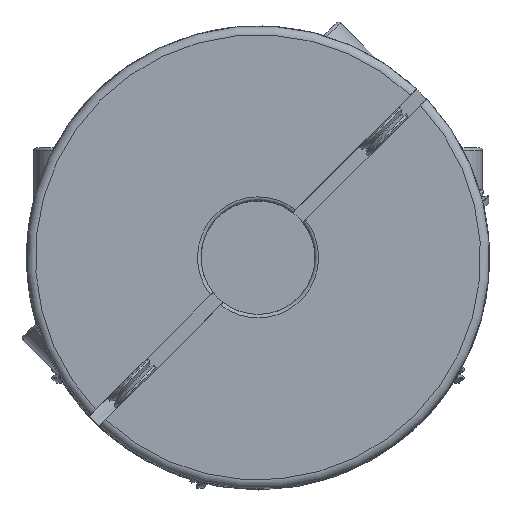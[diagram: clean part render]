
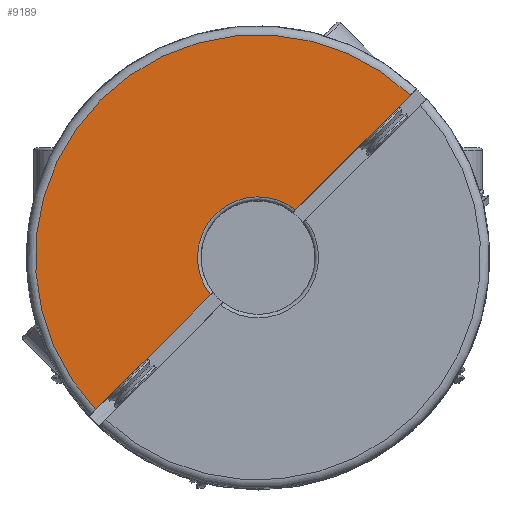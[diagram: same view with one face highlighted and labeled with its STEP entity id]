
A CAD part, top view. The second image highlights one B-rep face of the part: STEP entity #9189.
In plain terms, the highlighted planar face has unit normal (0, 0, 1).
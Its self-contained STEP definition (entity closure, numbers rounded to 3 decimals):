
#261 = ORIENTED_EDGE ( 'NONE', *, *, #31952, .T. ) ;
#545 = VECTOR ( 'NONE', #12340, 1000. ) ;
#1183 = EDGE_CURVE ( 'NONE', #30923, #21366, #22845, .T. ) ;
#2732 = AXIS2_PLACEMENT_3D ( 'NONE', #25212, #9863, #27783 ) ;
#4796 = PLANE ( 'NONE',  #11989 ) ;
#5323 = VERTEX_POINT ( 'NONE', #33119 ) ;
#5577 = DIRECTION ( 'NONE',  ( 0.707, 0.707, 0. ) ) ;
#7372 = CARTESIAN_POINT ( 'NONE',  ( 1.121, 1.995, 84.552 ) ) ;
#7559 = DIRECTION ( 'NONE',  ( 0., 0., -1. ) ) ;
#9189 = ADVANCED_FACE ( 'NONE', ( #26488 ), #4796, .F. ) ;
#9863 = DIRECTION ( 'NONE',  ( 0., 0., 1. ) ) ;
#9936 = DIRECTION ( 'NONE',  ( -0.707, -0.707, 0. ) ) ;
#11989 = AXIS2_PLACEMENT_3D ( 'NONE', #7372, #25295, #9936 ) ;
#12340 = DIRECTION ( 'NONE',  ( 0.707, 0.707, 0. ) ) ;
#12611 = CARTESIAN_POINT ( 'NONE',  ( 6.382, 8.671, 84.552 ) ) ;
#13709 = LINE ( 'NONE', #15757, #14505 ) ;
#14505 = VECTOR ( 'NONE', #5577, 1000. ) ;
#15757 = CARTESIAN_POINT ( 'NONE',  ( -22.567, -20.278, 84.552 ) ) ;
#16231 = CARTESIAN_POINT ( 'NONE',  ( -21.672, -19.383, 84.552 ) ) ;
#16807 = CIRCLE ( 'NONE', #26474, 8.5 ) ;
#21366 = VERTEX_POINT ( 'NONE', #16231 ) ;
#22042 = ORIENTED_EDGE ( 'NONE', *, *, #26280, .T. ) ;
#22767 = CARTESIAN_POINT ( 'NONE',  ( -22.567, -20.278, 84.552 ) ) ;
#22845 = CIRCLE ( 'NONE', #2732, 31.25 ) ;
#22912 = CARTESIAN_POINT ( 'NONE',  ( 1.121, 1.995, 84.552 ) ) ;
#25212 = CARTESIAN_POINT ( 'NONE',  ( 1.121, 1.995, 84.552 ) ) ;
#25295 = DIRECTION ( 'NONE',  ( 0., 0., -1. ) ) ;
#25494 = DIRECTION ( 'NONE',  ( -0.707, -0.707, 0. ) ) ;
#26280 = EDGE_CURVE ( 'NONE', #26723, #30923, #27793, .T. ) ;
#26474 = AXIS2_PLACEMENT_3D ( 'NONE', #22912, #7559, #25494 ) ;
#26488 = FACE_OUTER_BOUND ( 'NONE', #28229, .T. ) ;
#26723 = VERTEX_POINT ( 'NONE', #12611 ) ;
#27783 = DIRECTION ( 'NONE',  ( -0.707, -0.707, 0. ) ) ;
#27793 = LINE ( 'NONE', #22767, #545 ) ;
#28229 = EDGE_LOOP ( 'NONE', ( #30935, #29744, #261, #22042 ) ) ;
#28897 = EDGE_CURVE ( 'NONE', #21366, #5323, #13709, .T. ) ;
#29744 = ORIENTED_EDGE ( 'NONE', *, *, #28897, .T. ) ;
#29937 = CARTESIAN_POINT ( 'NONE',  ( 22.499, 24.788, 84.552 ) ) ;
#30923 = VERTEX_POINT ( 'NONE', #29937 ) ;
#30935 = ORIENTED_EDGE ( 'NONE', *, *, #1183, .T. ) ;
#31952 = EDGE_CURVE ( 'NONE', #5323, #26723, #16807, .T. ) ;
#33119 = CARTESIAN_POINT ( 'NONE',  ( -5.555, -3.266, 84.552 ) ) ;
